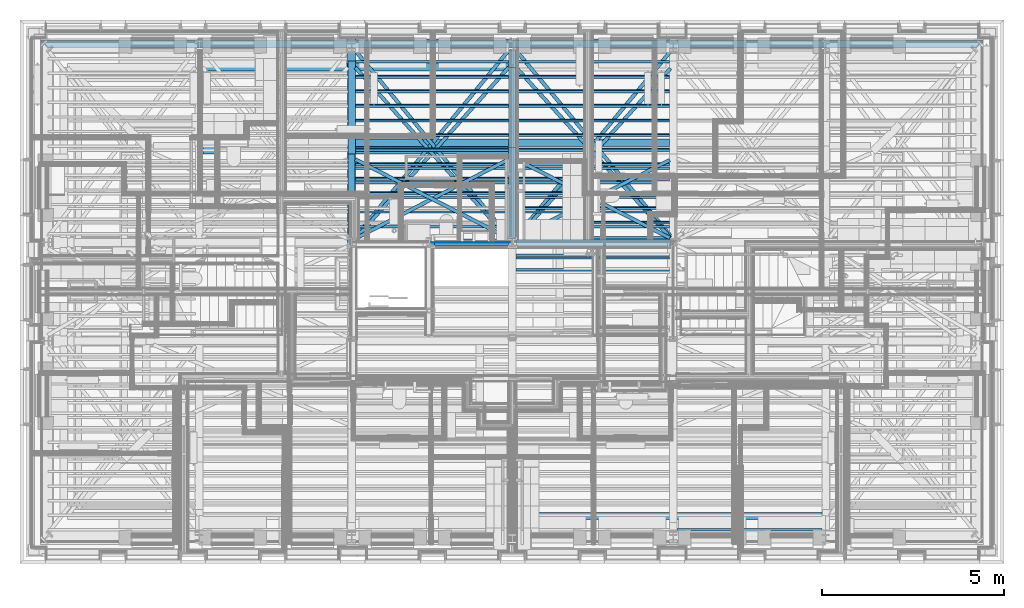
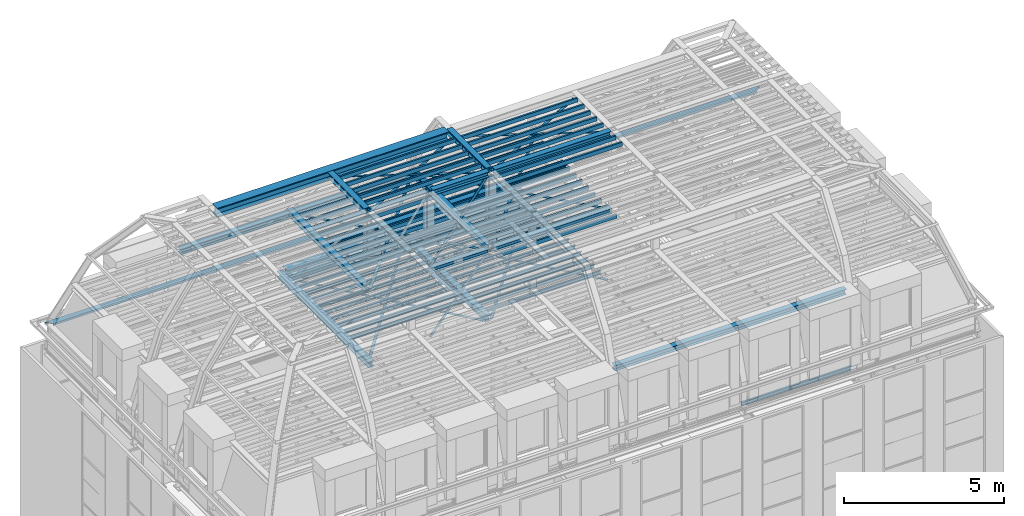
# One storey, part 8 of 183: 90 beams.
"""IFC2X3 building model written with IfcOpenShell, lengths in metres."""

from ifc_helpers import new_model, entity, si_unit, converted_unit, derived_unit, money_unit, direction, frame, frame_2d, origin_with_axes, place, context, subcontext, project, spatial, polyline, rectangle, outline, extrude, clip, halfspace, material, type_object, element, save


model = new_model("IFC2X3")

# Units and contexts
model_context = context("Model", 3, precision=1e-05, world=origin_with_axes(), true_north=direction((0.0, 1.0)))
body_context = subcontext(model_context, "Body", "Model", "MODEL_VIEW", scale=1.0)
ifc_project = project(units=[si_unit("LENGTHUNIT", "METRE"), si_unit("AREAUNIT", "SQUARE_METRE"), si_unit("VOLUMEUNIT", "CUBIC_METRE"), si_unit("ABSORBEDDOSEUNIT", "GRAY"), si_unit("AMOUNTOFSUBSTANCEUNIT", "MOLE"), si_unit("DOSEEQUIVALENTUNIT", "SIEVERT"), si_unit("ELECTRICCAPACITANCEUNIT", "FARAD"), si_unit("ELECTRICCHARGEUNIT", "COULOMB"), si_unit("ELECTRICCONDUCTANCEUNIT", "SIEMENS"), si_unit("ELECTRICCURRENTUNIT", "AMPERE"), si_unit("ELECTRICRESISTANCEUNIT", "OHM"), si_unit("ELECTRICVOLTAGEUNIT", "VOLT"), si_unit("ENERGYUNIT", "JOULE"), si_unit("FORCEUNIT", "NEWTON"), si_unit("FREQUENCYUNIT", "HERTZ"), si_unit("ILLUMINANCEUNIT", "LUX"), si_unit("INDUCTANCEUNIT", "HENRY"), si_unit("LUMINOUSFLUXUNIT", "LUMEN"), si_unit("LUMINOUSINTENSITYUNIT", "CANDELA"), si_unit("MAGNETICFLUXDENSITYUNIT", "TESLA"), si_unit("MAGNETICFLUXUNIT", "WEBER"), si_unit("MASSUNIT", "GRAM"), converted_unit("PLANEANGLEUNIT", "degree", entity("IfcReal", 0.0174532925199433), si_unit("PLANEANGLEUNIT", "RADIAN"), dimensions=[0, 0, 0, 0, 0, 0, 0]), si_unit("POWERUNIT", "WATT"), si_unit("PRESSUREUNIT", "PASCAL"), si_unit("RADIOACTIVITYUNIT", "BECQUEREL"), si_unit("SOLIDANGLEUNIT", "STERADIAN"), si_unit("THERMODYNAMICTEMPERATUREUNIT", "KELVIN"), si_unit("TIMEUNIT", "SECOND"), derived_unit("ACCELERATIONUNIT", [(si_unit("LENGTHUNIT", "METRE"), 1), (si_unit("TIMEUNIT", "SECOND"), -2)]), derived_unit("ANGULARVELOCITYUNIT", [(converted_unit("PLANEANGLEUNIT", "degree", entity("IfcReal", 0.0174532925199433), si_unit("PLANEANGLEUNIT", "RADIAN"), dimensions=[0, 0, 0, 0, 0, 0, 0]), 1), (si_unit("TIMEUNIT", "SECOND"), -1)]), derived_unit("CURVATUREUNIT", [(converted_unit("PLANEANGLEUNIT", "degree", entity("IfcReal", 0.0174532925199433), si_unit("PLANEANGLEUNIT", "RADIAN"), dimensions=[0, 0, 0, 0, 0, 0, 0]), 1), (si_unit("LENGTHUNIT", "METRE"), -1)]), derived_unit("DYNAMICVISCOSITYUNIT", [(si_unit("PRESSUREUNIT", "PASCAL"), 1), (si_unit("TIMEUNIT", "SECOND"), 1)]), derived_unit("HEATFLUXDENSITYUNIT", [(si_unit("POWERUNIT", "WATT"), 1), (si_unit("LENGTHUNIT", "METRE"), -2)]), derived_unit("HEATINGVALUEUNIT", [(si_unit("ENERGYUNIT", "JOULE"), 1), (si_unit("MASSUNIT", "GRAM"), -1)]), derived_unit("INTEGERCOUNTRATEUNIT", [(si_unit("TIMEUNIT", "SECOND"), -1)]), derived_unit("IONCONCENTRATIONUNIT", [(si_unit("MASSUNIT", "GRAM"), 1), (si_unit("VOLUMEUNIT", "CUBIC_METRE"), -1)]), derived_unit("ISOTHERMALMOISTURECAPACITYUNIT", [(si_unit("VOLUMEUNIT", "CUBIC_METRE"), 1), (si_unit("MASSUNIT", "GRAM"), -1)]), derived_unit("KINEMATICVISCOSITYUNIT", [(si_unit("AREAUNIT", "SQUARE_METRE"), 1), (si_unit("TIMEUNIT", "SECOND"), -1)]), derived_unit("LINEARFORCEUNIT", [(si_unit("FORCEUNIT", "NEWTON"), 1), (si_unit("LENGTHUNIT", "METRE"), -1)]), derived_unit("LINEARMOMENTUNIT", [(si_unit("FORCEUNIT", "NEWTON"), 1), (si_unit("LENGTHUNIT", "METRE"), -1)]), derived_unit("LINEARSTIFFNESSUNIT", [(si_unit("FORCEUNIT", "NEWTON"), 1), (si_unit("LENGTHUNIT", "METRE"), -1)]), derived_unit("LINEARVELOCITYUNIT", [(si_unit("LENGTHUNIT", "METRE"), 1), (si_unit("TIMEUNIT", "SECOND"), -1)]), derived_unit("LUMINOUSINTENSITYDISTRIBUTIONUNIT", [(si_unit("LUMINOUSINTENSITYUNIT", "CANDELA"), 1), (si_unit("LUMINOUSFLUXUNIT", "LUMEN"), -1)]), derived_unit("MASSDENSITYUNIT", [(si_unit("MASSUNIT", "GRAM"), 1), (si_unit("VOLUMEUNIT", "CUBIC_METRE"), -1)]), derived_unit("MASSFLOWRATEUNIT", [(si_unit("MASSUNIT", "GRAM"), 1), (si_unit("TIMEUNIT", "SECOND"), -1)]), derived_unit("MASSPERLENGTHUNIT", [(si_unit("MASSUNIT", "GRAM"), 1), (si_unit("LENGTHUNIT", "METRE"), -1)]), derived_unit("MODULUSOFELASTICITYUNIT", [(si_unit("FORCEUNIT", "NEWTON"), 1), (si_unit("AREAUNIT", "SQUARE_METRE"), -1)]), derived_unit("MODULUSOFLINEARSUBGRADEREACTIONUNIT", [(si_unit("FORCEUNIT", "NEWTON"), 1), (si_unit("LENGTHUNIT", "METRE"), -2)]), derived_unit("MODULUSOFROTATIONALSUBGRADEREACTIONUNIT", [(si_unit("FORCEUNIT", "NEWTON"), 1), (si_unit("LENGTHUNIT", "METRE"), 1)]), derived_unit("MODULUSOFSUBGRADEREACTIONUNIT", [(si_unit("FORCEUNIT", "NEWTON"), 1), (si_unit("VOLUMEUNIT", "CUBIC_METRE"), -1)]), derived_unit("MOISTUREDIFFUSIVITYUNIT", [(si_unit("VOLUMEUNIT", "CUBIC_METRE"), 1), (si_unit("TIMEUNIT", "SECOND"), -1)]), derived_unit("MOLECULARWEIGHTUNIT", [(si_unit("MASSUNIT", "GRAM"), 1), (si_unit("AMOUNTOFSUBSTANCEUNIT", "MOLE"), -1)]), derived_unit("PLANARFORCEUNIT", [(si_unit("FORCEUNIT", "NEWTON"), 1), (si_unit("LENGTHUNIT", "METRE"), -2)]), derived_unit("ROTATIONALFREQUENCYUNIT", [(si_unit("TIMEUNIT", "SECOND"), -1)]), derived_unit("ROTATIONALMASSUNIT", [(si_unit("MASSUNIT", "GRAM"), 1), (si_unit("LENGTHUNIT", "METRE"), 2)]), derived_unit("ROTATIONALSTIFFNESSUNIT", [(si_unit("FORCEUNIT", "NEWTON"), 1), (si_unit("LENGTHUNIT", "METRE"), 1), (converted_unit("PLANEANGLEUNIT", "degree", entity("IfcReal", 0.0174532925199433), si_unit("PLANEANGLEUNIT", "RADIAN"), dimensions=[0, 0, 0, 0, 0, 0, 0]), -1)]), derived_unit("SECTIONAREAINTEGRALUNIT", [(si_unit("LENGTHUNIT", "METRE"), 5)]), derived_unit("SECTIONMODULUSUNIT", [(si_unit("LENGTHUNIT", "METRE"), 3)]), derived_unit("SHEARMODULUSUNIT", [(si_unit("FORCEUNIT", "NEWTON"), 1), (si_unit("AREAUNIT", "SQUARE_METRE"), -1)]), derived_unit("SOUNDPOWERUNIT", [(si_unit("ENERGYUNIT", "JOULE"), 1), (si_unit("TIMEUNIT", "SECOND"), -1)]), derived_unit("SPECIFICHEATCAPACITYUNIT", [(si_unit("FORCEUNIT", "NEWTON"), 1), (si_unit("MASSUNIT", "GRAM"), -1), (si_unit("THERMODYNAMICTEMPERATUREUNIT", "KELVIN"), -1)]), derived_unit("TEMPERATUREGRADIENTUNIT", [(si_unit("THERMODYNAMICTEMPERATUREUNIT", "KELVIN"), 1), (si_unit("LENGTHUNIT", "METRE"), -1)]), derived_unit("THERMALADMITTANCEUNIT", [(si_unit("POWERUNIT", "WATT"), 1), (si_unit("AREAUNIT", "SQUARE_METRE"), -1), (si_unit("THERMODYNAMICTEMPERATUREUNIT", "KELVIN"), -1)]), derived_unit("THERMALCONDUCTANCEUNIT", [(si_unit("POWERUNIT", "WATT"), 1), (si_unit("LENGTHUNIT", "METRE"), -1), (si_unit("THERMODYNAMICTEMPERATUREUNIT", "KELVIN"), -1)]), derived_unit("THERMALEXPANSIONCOEFFICIENTUNIT", [(si_unit("THERMODYNAMICTEMPERATUREUNIT", "KELVIN"), -1)]), derived_unit("THERMALRESISTANCEUNIT", [(si_unit("AREAUNIT", "SQUARE_METRE"), 1), (si_unit("POWERUNIT", "WATT"), -1)]), derived_unit("THERMALTRANSMITTANCEUNIT", [(si_unit("POWERUNIT", "WATT"), 1), (si_unit("AREAUNIT", "SQUARE_METRE"), -1), (si_unit("THERMODYNAMICTEMPERATUREUNIT", "KELVIN"), -1)]), derived_unit("TORQUEUNIT", [(si_unit("FORCEUNIT", "NEWTON"), 1), (si_unit("LENGTHUNIT", "METRE"), 1)]), derived_unit("VAPORPERMEABILITYUNIT", [(si_unit("MASSUNIT", "GRAM"), 1), (si_unit("TIMEUNIT", "SECOND"), -1)]), derived_unit("VOLUMETRICFLOWRATEUNIT", [(si_unit("VOLUMEUNIT", "CUBIC_METRE"), 1), (si_unit("TIMEUNIT", "SECOND"), -1)]), derived_unit("WARPINGCONSTANTUNIT", [(si_unit("LENGTHUNIT", "METRE"), 6)]), derived_unit("WARPINGMOMENTUNIT", [(si_unit("FORCEUNIT", "NEWTON"), 1), (si_unit("LENGTHUNIT", "METRE"), 2)]), money_unit("GBP")], contexts=[model_context])

# Site, building, storey
site_placement = place(None, origin_with_axes())
site = spatial("IfcSite", under=ifc_project, at=site_placement, Name="Site", CompositionType="ELEMENT")
building_placement = place(site_placement, origin_with_axes())
building = spatial("IfcBuilding", under=site, at=building_placement, Name="Building01", CompositionType="ELEMENT")
storey_placement = place(building_placement, frame((0.0, 0.0, 5.15), z_axis=(0.0, 0.0, 1.0), x_axis=(1.0, 0.0, 0.0)))
storey = spatial("IfcBuildingStorey", under=building, at=storey_placement, Name="1F", CompositionType="ELEMENT", Elevation=5.15)

# Beams
ifc_material = material(Name="A_BSUK_Beams_Steel")
beam_type_1 = type_object("IfcBeamType", Name="A-Beams-Steel", PredefinedType="BEAM")
beam_1_placement = place(storey_placement, frame((9.19455, 14.0616, 9.5078), z_axis=(1.0, 0.0, 0.0), x_axis=(0.0, 1.0, 0.0)))
element("IfcBeam", 1, at=beam_1_placement, inside=storey, type_object=beam_type_1, material=ifc_material, Name="4F", ObjectType="A-Beams-Steel", context=body_context, shape_type="SweptSolid", body=[
    extrude(outline(polyline([(0.3184, 0.0), (0.3184, 0.0377), (0.1707, 0.0377), (0.1707, 0.3148), (0.3184, 0.3148), (0.3184, 0.3525), (0.0, 0.3525), (0.0, 0.3148), (0.1477, 0.3148), (0.1477, 0.0377), (0.0, 0.0377), (0.0, 0.0), (0.3184, 0.0)])), origin_with_axes(), (0.0, 0.0, 1.0), 8.6109),
])
beam_2_placement = place(storey_placement, frame((8.98545, 14.38, 9.5078), z_axis=(0.0, -1.0, 0.0), x_axis=(1.0, 0.0, 0.0)))
element("IfcBeam", 2, at=beam_2_placement, inside=storey, type_object=beam_type_1, material=ifc_material, Name="4F", ObjectType="A-Beams-Steel", context=body_context, shape_type="SweptSolid", body=[
    extrude(outline(polyline([(0.2091, 0.0), (0.2091, 0.0205), (0.1109, 0.0205), (0.1109, 0.2017), (0.2091, 0.2017), (0.2091, 0.2222), (0.0, 0.2222), (0.0, 0.2017), (0.0982, 0.2017), (0.0982, 0.0205), (0.0, 0.0205), (0.0, 0.0), (0.2091, 0.0)])), origin_with_axes(), (0.0, 0.0, 1.0), 5.7392),
])
beam_3_placement = place(storey_placement, frame((13.39545, 14.0616, 9.5078), z_axis=(0.0, -1.0, 0.0), x_axis=(1.0, 0.0, 0.0)))
element("IfcBeam", 3, at=beam_3_placement, inside=storey, type_object=beam_type_1, material=ifc_material, Name="4F", ObjectType="A-Beams-Steel", context=body_context, shape_type="SweptSolid", body=[
    extrude(outline(polyline([(0.2091, 0.0), (0.2091, 0.0205), (0.1109, 0.0205), (0.1109, 0.2017), (0.2091, 0.2017), (0.2091, 0.2222), (0.0, 0.2222), (0.0, 0.2017), (0.0982, 0.2017), (0.0982, 0.0205), (0.0, 0.0205), (0.0, 0.0), (0.2091, 0.0)])), origin_with_axes(), (0.0, 0.0, 1.0), 5.1024),
])
beam_4_placement = place(storey_placement, frame((5.0132, 13.4982, 12.2768), z_axis=(1.0, 0.0, 0.0), x_axis=(0.0, 1.0, 0.0)))
element("IfcBeam", 4, at=beam_4_placement, inside=storey, type_object=beam_type_1, material=ifc_material, Name="5F", ObjectType="A-Beams-Steel", context=body_context, shape_type="SweptSolid", body=[
    extrude(outline(polyline([(0.2036, 0.0), (0.2036, 0.011), (0.1054, 0.011), (0.1054, 0.1922), (0.2036, 0.1922), (0.2036, 0.2032), (0.0, 0.2032), (0.0, 0.1922), (0.0982, 0.1922), (0.0982, 0.011), (0.0, 0.011), (0.0, 0.0), (0.2036, 0.0)])), origin_with_axes(), (0.0, 0.0, 1.0), 8.3836),
])
beam_5_placement = place(storey_placement, frame((8.9868, 13.780445, 12.2642), z_axis=(0.0, -1.0, 0.0), x_axis=(1.0, 0.0, 0.0)))
element("IfcBeam", 5, at=beam_5_placement, inside=storey, type_object=beam_type_1, material=ifc_material, Name="5F", ObjectType="A-Beams-Steel", context=body_context, shape_type="SweptSolid", body=[
    extrude(outline(polyline([(0.2064, 0.0), (0.2064, 0.0173), (0.1082, 0.0173), (0.1082, 0.1985), (0.2064, 0.1985), (0.2064, 0.2158), (0.0, 0.2158), (0.0, 0.1985), (0.0982, 0.1985), (0.0982, 0.0173), (0.0, 0.0173), (0.0, 0.0), (0.2064, 0.0)])), origin_with_axes(), (0.0, 0.0, 1.0), 4.866145),
])
beam_6_placement = place(storey_placement, frame((13.3968, 13.5982, 12.2642), z_axis=(0.0, -1.0, 0.0), x_axis=(1.0, 0.0, 0.0)))
element("IfcBeam", 6, at=beam_6_placement, inside=storey, type_object=beam_type_1, material=ifc_material, Name="5F", ObjectType="A-Beams-Steel", context=body_context, shape_type="SweptSolid", body=[
    extrude(outline(polyline([(0.2064, 0.0), (0.2064, 0.0173), (0.1082, 0.0173), (0.1082, 0.1985), (0.2064, 0.1985), (0.2064, 0.2158), (0.0, 0.2158), (0.0, 0.1985), (0.0982, 0.1985), (0.0982, 0.0173), (0.0, 0.0173), (0.0, 0.0), (0.2064, 0.0)])), origin_with_axes(), (0.0, 0.0, 1.0), 4.6839),
])
beam_7_placement = place(storey_placement, frame((13.6032, 1.1982, 12.2768), z_axis=(1.0, 0.0, 0.0), x_axis=(0.0, 1.0, 0.0)))
element("IfcBeam", 7, at=beam_7_placement, inside=storey, type_object=beam_type_1, material=ifc_material, Name="5F", ObjectType="A-Beams-Steel", context=body_context, shape_type="SweptSolid", body=[
    extrude(outline(polyline([(0.2036, 0.0), (0.2036, 0.011), (0.1054, 0.011), (0.1054, 0.1922), (0.2036, 0.1922), (0.2036, 0.2032), (0.0, 0.2032), (0.0, 0.1922), (0.0982, 0.1922), (0.0982, 0.011), (0.0, 0.011), (0.0, 0.0), (0.2036, 0.0)])), origin_with_axes(), (0.0, 0.0, 1.0), 8.38225),
])
beam_8_placement = place(storey_placement, frame((11.26515, 8.698199, 12.2768), z_axis=(1.0, 0.0, 0.0), x_axis=(0.0, 1.0, 0.0)))
element("IfcBeam", 8, at=beam_8_placement, inside=storey, type_object=beam_type_1, material=ifc_material, Name="5F", ObjectType="A-Beams-Steel", context=body_context, shape_type="SweptSolid", body=[
    extrude(outline(polyline([(0.2036, 0.0), (0.2036, 0.011), (0.1054, 0.011), (0.1054, 0.1922), (0.2036, 0.1922), (0.2036, 0.2032), (0.0, 0.2032), (0.0, 0.1922), (0.0982, 0.1922), (0.0982, 0.011), (0.0, 0.011), (0.0, 0.0), (0.2036, 0.0)])), origin_with_axes(), (0.0, 0.0, 1.0), 2.1297),
])
beam_9_placement = place(storey_placement, frame((13.60515, 8.698199, 12.2768), z_axis=(1.0, 0.0, 0.0), x_axis=(0.0, 1.0, 0.0)))
element("IfcBeam", 9, at=beam_9_placement, inside=storey, type_object=beam_type_1, material=ifc_material, Name="5F", ObjectType="A-Beams-Steel", context=body_context, shape_type="SweptSolid", body=[
    extrude(outline(polyline([(0.2036, 0.0), (0.2036, 0.011), (0.1054, 0.011), (0.1054, 0.1922), (0.2036, 0.1922), (0.2036, 0.2032), (0.0, 0.2032), (0.0, 0.1922), (0.0982, 0.1922), (0.0982, 0.011), (0.0, 0.011), (0.0, 0.0), (0.2036, 0.0)])), origin_with_axes(), (0.0, 0.0, 1.0), 4.22985),
])
beam_10_placement = place(storey_placement, frame((9.1932, 11.4382, 12.2768), z_axis=(1.0, 0.0, 0.0), x_axis=(0.0, 1.0, 0.0)))
element("IfcBeam", 10, at=beam_10_placement, inside=storey, type_object=beam_type_1, material=ifc_material, Name="5F", ObjectType="A-Beams-Steel", context=body_context, shape_type="SweptSolid", body=[
    extrude(outline(polyline([(0.2036, 0.0), (0.2036, 0.011), (0.1054, 0.011), (0.1054, 0.1922), (0.2036, 0.1922), (0.2036, 0.2032), (0.0, 0.2032), (0.0, 0.1922), (0.0982, 0.1922), (0.0982, 0.011), (0.0, 0.011), (0.0, 0.0), (0.2036, 0.0)])), origin_with_axes(), (0.0, 0.0, 1.0), 4.203576),
])
beam_11_placement = place(storey_placement, frame((13.6032, 11.4382, 12.2768), z_axis=(1.0, 0.0, 0.0), x_axis=(0.0, 1.0, 0.0)))
element("IfcBeam", 11, at=beam_11_placement, inside=storey, type_object=beam_type_1, material=ifc_material, Name="5F", ObjectType="A-Beams-Steel", context=body_context, shape_type="SweptSolid", body=[
    extrude(outline(polyline([(0.2036, 0.0), (0.2036, 0.011), (0.1054, 0.011), (0.1054, 0.1922), (0.2036, 0.1922), (0.2036, 0.2032), (0.0, 0.2032), (0.0, 0.1922), (0.0982, 0.1922), (0.0982, 0.011), (0.0, 0.011), (0.0, 0.0), (0.2036, 0.0)])), origin_with_axes(), (0.0, 0.0, 1.0), 4.2036),
])
beam_12_placement = place(storey_placement, frame((8.9882, 11.2208, 15.2268), z_axis=(0.0, -1.0, 0.0), x_axis=(1.0, 0.0, 0.0)))
element("IfcBeam", 12, at=beam_12_placement, inside=storey, type_object=beam_type_1, material=ifc_material, Name="RP", ObjectType="A-Beams-Steel", context=body_context, shape_type="SweptSolid", body=[
    extrude(outline(polyline([(0.2036, 0.0), (0.2036, 0.011), (0.1054, 0.011), (0.1054, 0.1922), (0.2036, 0.1922), (0.2036, 0.2032), (0.0, 0.2032), (0.0, 0.1922), (0.0982, 0.1922), (0.0982, 0.011), (0.0, 0.011), (0.0, 0.0), (0.2036, 0.0)])), origin_with_axes(), (0.0, 0.0, 1.0), 2.3176),
])
beam_13_placement = place(storey_placement, frame((13.3982, 11.3992, 15.2268), z_axis=(0.0, -1.0, 0.0), x_axis=(1.0, 0.0, 0.0)))
element("IfcBeam", 13, at=beam_13_placement, inside=storey, type_object=beam_type_1, material=ifc_material, Name="RP", ObjectType="A-Beams-Steel", context=body_context, shape_type="SweptSolid", body=[
    extrude(outline(polyline([(0.2036, 0.0), (0.2036, 0.011), (0.1054, 0.011), (0.1054, 0.1922), (0.2036, 0.1922), (0.2036, 0.2032), (0.0, 0.2032), (0.0, 0.1922), (0.0982, 0.1922), (0.0982, 0.011), (0.0, 0.011), (0.0, 0.0), (0.2036, 0.0)])), origin_with_axes(), (0.0, 0.0, 1.0), 2.4849),
])
beam_14_placement = place(storey_placement, frame((11.36515, 8.6982, 15.2268), z_axis=(1.0, 0.0, 0.0), x_axis=(0.0, 1.0, 0.0)))
element("IfcBeam", 14, at=beam_14_placement, inside=storey, type_object=beam_type_1, material=ifc_material, Name="RP", ObjectType="A-Beams-Steel", context=body_context, shape_type="SweptSolid", body=[
    extrude(outline(polyline([(0.2036, 0.0), (0.2036, 0.011), (0.1054, 0.011), (0.1054, 0.1922), (0.2036, 0.1922), (0.2036, 0.2032), (0.0, 0.2032), (0.0, 0.1922), (0.0982, 0.1922), (0.0982, 0.011), (0.0, 0.011), (0.0, 0.0), (0.2036, 0.0)])), origin_with_axes(), (0.0, 0.0, 1.0), 2.0297),
])
beam_15_placement = place(storey_placement, frame((13.60515, 8.6982, 15.2268), z_axis=(1.0, 0.0, 0.0), x_axis=(0.0, 1.0, 0.0)))
element("IfcBeam", 15, at=beam_15_placement, inside=storey, type_object=beam_type_1, material=ifc_material, Name="RP", ObjectType="A-Beams-Steel", context=body_context, shape_type="SweptSolid", body=[
    extrude(outline(polyline([(0.2036, 0.0), (0.2036, 0.011), (0.1054, 0.011), (0.1054, 0.1922), (0.2036, 0.1922), (0.2036, 0.2032), (0.0, 0.2032), (0.0, 0.1922), (0.0982, 0.1922), (0.0982, 0.011), (0.0, 0.011), (0.0, 0.0), (0.2036, 0.0)])), origin_with_axes(), (0.0, 0.0, 1.0), 4.20305),
])
beam_16_placement = place(storey_placement, frame((5.011822, 11.2208, 15.0775), z_axis=(1.0, 0.0, 0.0), x_axis=(0.0, 1.0, 0.0)))
element("IfcBeam", 16, at=beam_16_placement, inside=storey, type_object=beam_type_1, material=ifc_material, Name="RP", ObjectType="A-Beams-Steel", context=body_context, shape_type="SweptSolid", body=[
    extrude(outline(polyline([(0.3184, 0.0), (0.3184, 0.0377), (0.1707, 0.0377), (0.1707, 0.3148), (0.3184, 0.3148), (0.3184, 0.3525), (0.0, 0.3525), (0.0, 0.3148), (0.1477, 0.3148), (0.1477, 0.0377), (0.0, 0.0377), (0.0, 0.0), (0.3184, 0.0)])), origin_with_axes(), (0.0, 0.0, 1.0), 8.386378),
])
for number, where, z_axis, x_axis, name in (
    (17, (13.356849, 14.093381, 9.558), (-0.6356102, -0.77201016, 0.0), (0.77201016, -0.6356102, 0.0), "4F"),
    (18, (9.155949, 14.029819, 9.568), (0.6356102, -0.77201016, 0.0), (0.77201016, 0.6356102, 0.0), "4F"),
):
    element("IfcBeam", number, at=place(storey_placement, frame(where, z_axis=z_axis, x_axis=x_axis)), inside=storey, type_object=beam_type_1, material=ifc_material, Name=name, ObjectType="A-Beams-Steel", context=body_context, shape_type="SweptSolid", body=[
        extrude(rectangle(XDim=0.01, YDim=0.1, at=frame_2d((0.05, 0.005), x_axis=(0.0, 1.0))), origin_with_axes(), (0.0, 0.0, 1.0), 6.609239),
    ])
for number, where, z_axis, x_axis, name in (
    (19, (13.566135, 14.029596, 9.568), (0.64008664, -0.76830273, 0.0), (0.76830273, 0.64008664, 0.0), "4F"),
    (20, (17.796549, 14.069015, 9.558), (-0.64008664, -0.76830273, 0.0), (0.76830273, -0.64008664, 0.0), "4F"),
):
    element("IfcBeam", number, at=place(storey_placement, frame(where, z_axis=z_axis, x_axis=x_axis)), inside=storey, type_object=beam_type_1, material=ifc_material, Name=name, ObjectType="A-Beams-Steel", context=body_context, shape_type="SweptSolid", body=[
        extrude(rectangle(XDim=0.01, YDim=0.1, at=frame_2d((0.05, 0.005), x_axis=(0.0, 1.0))), origin_with_axes(), (0.0, 0.0, 1.0), 6.609128),
    ])
beam_17_placement = place(storey_placement, frame((13.359544, 13.631547, 12.308), z_axis=(-0.66693206, -0.74511853, 0.0), x_axis=(0.74511853, -0.66693206, 0.0)))
element("IfcBeam", 21, at=beam_17_placement, inside=storey, type_object=beam_type_1, material=ifc_material, Name="5F", ObjectType="A-Beams-Steel", context=body_context, shape_type="SweptSolid", body=[
    extrude(rectangle(XDim=0.01, YDim=0.1, at=frame_2d((0.05, 0.005), x_axis=(0.0, 1.0))), origin_with_axes(), (0.0, 0.0, 1.0), 6.302891),
])
beam_18_placement = place(storey_placement, frame((9.155936, 13.564862, 12.318), z_axis=(0.66676024, -0.74527229, 0.0), x_axis=(0.74527229, 0.66676024, 0.0)))
element("IfcBeam", 22, at=beam_18_placement, inside=storey, type_object=beam_type_1, material=ifc_material, Name="5F", ObjectType="A-Beams-Steel", context=body_context, shape_type="SweptSolid", body=[
    extrude(rectangle(XDim=0.01, YDim=0.1, at=frame_2d((0.05, 0.005), x_axis=(0.0, 1.0))), origin_with_axes(), (0.0, 0.0, 1.0), 6.301591),
])
beam_19_placement = place(storey_placement, frame((17.797208, 13.606888, 12.308), z_axis=(-0.67132733, -0.741161, 0.0), x_axis=(0.741161, -0.67132733, 0.0)))
element("IfcBeam", 23, at=beam_19_placement, inside=storey, type_object=beam_type_1, material=ifc_material, Name="5F", ObjectType="A-Beams-Steel", context=body_context, shape_type="SweptSolid", body=[
    extrude(rectangle(XDim=0.01, YDim=0.1, at=frame_2d((0.05, 0.005), x_axis=(0.0, 1.0))), origin_with_axes(), (0.0, 0.0, 1.0), 6.302538),
])
beam_20_placement = place(storey_placement, frame((13.566141, 13.564635, 12.318), z_axis=(0.67130162, -0.74118428, 0.0), x_axis=(0.74118428, 0.67130162, 0.0)))
element("IfcBeam", 24, at=beam_20_placement, inside=storey, type_object=beam_type_1, material=ifc_material, Name="5F", ObjectType="A-Beams-Steel", context=body_context, shape_type="SweptSolid", body=[
    extrude(rectangle(XDim=0.01, YDim=0.1, at=frame_2d((0.05, 0.005), x_axis=(0.0, 1.0))), origin_with_axes(), (0.0, 0.0, 1.0), 6.302782),
])
beam_21_placement = place(storey_placement, frame((9.214787, 8.858797, 15.258), z_axis=(0.88805598, 0.45973533, 0.0), x_axis=(-0.45973533, 0.88805598, 0.0)))
element("IfcBeam", 25, at=beam_21_placement, inside=storey, type_object=beam_type_1, material=ifc_material, Name="RP", ObjectType="A-Beams-Steel", context=body_context, shape_type="SweptSolid", body=[
    extrude(rectangle(XDim=0.01, YDim=0.1, at=frame_2d((0.05, 0.005), x_axis=(0.0, 1.0))), origin_with_axes(), (0.0, 0.0, 1.0), 4.736638),
])
beam_22_placement = place(storey_placement, frame((9.168906, 11.036349, 15.268), z_axis=(0.88901184, -0.45788421, 0.0), x_axis=(0.45788421, 0.88901184, 0.0)))
element("IfcBeam", 26, at=beam_22_placement, inside=storey, type_object=beam_type_1, material=ifc_material, Name="RP", ObjectType="A-Beams-Steel", context=body_context, shape_type="SweptSolid", body=[
    extrude(rectangle(XDim=0.01, YDim=0.1, at=frame_2d((0.05, 0.005), x_axis=(0.0, 1.0))), origin_with_axes(), (0.0, 0.0, 1.0), 4.731546),
])
beam_23_placement = place(storey_placement, frame((13.624481, 8.86974, 15.258), z_axis=(0.89119651, 0.45361743, 0.0), x_axis=(-0.45361743, 0.89119651, 0.0)))
element("IfcBeam", 27, at=beam_23_placement, inside=storey, type_object=beam_type_1, material=ifc_material, Name="RP", ObjectType="A-Beams-Steel", context=body_context, shape_type="SweptSolid", body=[
    extrude(rectangle(XDim=0.01, YDim=0.1, at=frame_2d((0.05, 0.005), x_axis=(0.0, 1.0))), origin_with_axes(), (0.0, 0.0, 1.0), 4.731491),
])
beam_24_placement = place(storey_placement, frame((13.579027, 11.036287, 15.268), z_axis=(0.89025605, -0.45546038, 0.0), x_axis=(0.45546038, 0.89025605, 0.0)))
element("IfcBeam", 28, at=beam_24_placement, inside=storey, type_object=beam_type_1, material=ifc_material, Name="RP", ObjectType="A-Beams-Steel", context=body_context, shape_type="SweptSolid", body=[
    extrude(rectangle(XDim=0.01, YDim=0.1, at=frame_2d((0.05, 0.005), x_axis=(0.0, 1.0))), origin_with_axes(), (0.0, 0.0, 1.0), 4.736584),
])
beam_25_placement = place(storey_placement, frame((13.36027, 8.789999, 9.71843), z_axis=(-0.63640869, 0.0, 0.77135205), x_axis=(0.77135205, 0.0, 0.63640869)))
element("IfcBeam", 29, at=beam_25_placement, inside=storey, type_object=beam_type_1, material=ifc_material, Name="4F", ObjectType="A-Beams-Steel", context=body_context, shape_type="SweptSolid", body=[
    extrude(rectangle(XDim=0.01, YDim=0.1, at=frame_2d((0.05, 0.005), x_axis=(0.0, 1.0))), origin_with_axes(), (0.0, 0.0, 1.0), 3.233239),
])
beam_26_placement = place(storey_placement, frame((11.272485, 8.799999, 9.814783), z_axis=(0.63742277, 0.0, 0.77051425), x_axis=(0.77051425, 0.0, -0.63742277)))
element("IfcBeam", 30, at=beam_26_placement, inside=storey, type_object=beam_type_1, material=ifc_material, Name="4F", ObjectType="A-Beams-Steel", context=body_context, shape_type="SweptSolid", body=[
    extrude(rectangle(XDim=0.01, YDim=0.1, at=frame_2d((0.05, 0.005), x_axis=(0.0, 1.0))), origin_with_axes(), (0.0, 0.0, 1.0), 3.194831),
])
beam_27_placement = place(storey_placement, frame((13.334042, 8.789999, 12.450338), z_axis=(-0.59323473, 0.0, 0.80502954), x_axis=(0.80502954, 0.0, 0.59323473)))
element("IfcBeam", 31, at=beam_27_placement, inside=storey, type_object=beam_type_1, material=ifc_material, Name="5F", ObjectType="A-Beams-Steel", context=body_context, shape_type="SweptSolid", body=[
    extrude(rectangle(XDim=0.01, YDim=0.1, at=frame_2d((0.05, 0.005), x_axis=(0.0, 1.0))), origin_with_axes(), (0.0, 0.0, 1.0), 3.374751),
])
beam_28_placement = place(storey_placement, frame((11.271192, 8.799999, 12.513152), z_axis=(0.60480439, 0.0, 0.79637406), x_axis=(0.79637406, 0.0, -0.60480439)))
element("IfcBeam", 32, at=beam_28_placement, inside=storey, type_object=beam_type_1, material=ifc_material, Name="5F", ObjectType="A-Beams-Steel", context=body_context, shape_type="SweptSolid", body=[
    extrude(rectangle(XDim=0.01, YDim=0.1, at=frame_2d((0.05, 0.005), x_axis=(0.0, 1.0))), origin_with_axes(), (0.0, 0.0, 1.0), 3.408242),
])
beam_29_placement = place(storey_placement, frame((0.5664, 14.1387, 10.748931), z_axis=(1.0, 0.0, 0.0), x_axis=(0.0, 0.0, -1.0)))
element("IfcBeam", 33, at=beam_29_placement, inside=storey, type_object=beam_type_1, material=ifc_material, Name="4F", ObjectType="A-Beams-Steel", context=body_context, shape_type="Clipping", body=[
    clip(clip(extrude(outline(polyline([(0.075, 0.0), (0.075, 0.012), (0.006, 0.012), (0.006, 0.188), (0.075, 0.188), (0.075, 0.2), (0.0, 0.2), (0.0, 0.0), (0.075, 0.0)])), origin_with_axes(), (0.0, 0.0, 1.0), 25.8472), halfspace(frame((0.0, -12.8236, 12.8236), z_axis=(0.0, 0.70710678, -0.70710678), x_axis=(-1.0, 0.0, 0.0)), True)), halfspace(frame((0.0, 0.1, 0.1), z_axis=(0.0, 0.70710678, 0.70710678), x_axis=(-1.0, 0.0, 0.0)), True)),
])
beam_type_2 = type_object("IfcBeamType", Name="SHE_A-Beams-Steel-Purlin_150m15", PredefinedType="BEAM")
for number, where, z_axis, x_axis, name in (
    (34, (17.80545, 9.3912, 9.578), (-1.0, 0.0, 0.0), (0.0, -1.0, 0.0), "4F"),
    (35, (17.80545, 9.7912, 9.578), (-1.0, 0.0, 0.0), (0.0, -1.0, 0.0), "4F"),
    (36, (17.80545, 10.1912, 9.578), (-1.0, 0.0, 0.0), (0.0, -1.0, 0.0), "4F"),
    (37, (17.80545, 10.5912, 9.578), (-1.0, 0.0, 0.0), (0.0, -1.0, 0.0), "4F"),
    (38, (17.80545, 10.9912, 9.578), (-1.0, 0.0, 0.0), (0.0, -1.0, 0.0), "4F"),
    (39, (17.80545, 11.3912, 9.578), (-1.0, 0.0, 0.0), (0.0, -1.0, 0.0), "4F"),
    (40, (17.80545, 11.7912, 9.578), (-1.0, 0.0, 0.0), (0.0, -1.0, 0.0), "4F"),
    (41, (17.80545, 12.1912, 9.578), (-1.0, 0.0, 0.0), (0.0, -1.0, 0.0), "4F"),
    (42, (17.80545, 12.5912, 9.578), (-1.0, 0.0, 0.0), (0.0, -1.0, 0.0), "4F"),
    (43, (17.80545, 12.9912, 9.578), (-1.0, 0.0, 0.0), (0.0, -1.0, 0.0), "4F"),
    (44, (17.80545, 13.3912, 9.578), (-1.0, 0.0, 0.0), (0.0, -1.0, 0.0), "4F"),
    (45, (17.80545, 13.7912, 9.578), (-1.0, 0.0, 0.0), (0.0, -1.0, 0.0), "4F"),
    (46, (13.39545, 10.1912, 9.578), (-1.0, 0.0, 0.0), (0.0, -1.0, 0.0), "4F"),
    (47, (13.39545, 10.5912, 9.578), (-1.0, 0.0, 0.0), (0.0, -1.0, 0.0), "4F"),
    (48, (13.39545, 10.9912, 9.578), (-1.0, 0.0, 0.0), (0.0, -1.0, 0.0), "4F"),
    (49, (13.39545, 11.3912, 9.578), (-1.0, 0.0, 0.0), (0.0, -1.0, 0.0), "4F"),
    (50, (13.39545, 11.7912, 9.578), (-1.0, 0.0, 0.0), (0.0, -1.0, 0.0), "4F"),
    (51, (13.39545, 12.1912, 9.578), (-1.0, 0.0, 0.0), (0.0, -1.0, 0.0), "4F"),
    (52, (13.39545, 12.5912, 9.578), (-1.0, 0.0, 0.0), (0.0, -1.0, 0.0), "4F"),
    (53, (13.39545, 12.9912, 9.578), (-1.0, 0.0, 0.0), (0.0, -1.0, 0.0), "4F"),
    (54, (13.39545, 13.3912, 9.578), (-1.0, 0.0, 0.0), (0.0, -1.0, 0.0), "4F"),
    (55, (13.39545, 13.7912, 9.578), (-1.0, 0.0, 0.0), (0.0, -1.0, 0.0), "4F"),
):
    element("IfcBeam", number, at=place(storey_placement, frame(where, z_axis=z_axis, x_axis=x_axis)), inside=storey, type_object=beam_type_2, material=ifc_material, Name=name, ObjectType="SHE_A-Beams-Steel-Purlin_150m15", context=body_context, shape_type="SweptSolid", body=[
        extrude(outline(polyline([(0.064, 0.0), (0.064, 0.0155), (0.0625, 0.0155), (0.0625, 0.0015), (0.0015, 0.0015), (0.0015, 0.1505), (0.0625, 0.1505), (0.0625, 0.1365), (0.064, 0.1365), (0.064, 0.152), (0.0, 0.152), (0.0, 0.0), (0.064, 0.0)])), origin_with_axes(), (0.0, 0.0, 1.0), 4.2009),
    ])
beam_30_placement = place(storey_placement, frame((21.98545, 0.952, 9.578), z_axis=(-1.0, 0.0, 0.0), x_axis=(0.0, -1.0, 0.0)))
element("IfcBeam", 56, at=beam_30_placement, inside=storey, type_object=beam_type_2, material=ifc_material, Name="4F", ObjectType="SHE_A-Beams-Steel-Purlin_150m15", context=body_context, shape_type="SweptSolid", body=[
    extrude(outline(polyline([(0.064, 0.0), (0.064, 0.0155), (0.0625, 0.0155), (0.0625, 0.0015), (0.0015, 0.0015), (0.0015, 0.1505), (0.0625, 0.1505), (0.0625, 0.1365), (0.064, 0.1365), (0.064, 0.152), (0.0, 0.152), (0.0, 0.0), (0.064, 0.0)])), origin_with_axes(), (0.0, 0.0, 1.0), 3.9709),
])
for number, where, z_axis, x_axis, name in (
    (57, (9.1932, 12.900627, 12.328), (1.0, 0.0, 0.0), (0.0, 1.0, 0.0), "5F"),
    (58, (9.1932, 13.300627, 12.328), (1.0, 0.0, 0.0), (0.0, 1.0, 0.0), "5F"),
    (59, (9.1932, 12.500627, 12.328), (1.0, 0.0, 0.0), (0.0, 1.0, 0.0), "5F"),
    (60, (9.1932, 12.100627, 12.328), (1.0, 0.0, 0.0), (0.0, 1.0, 0.0), "5F"),
    (61, (9.1932, 11.700627, 12.328), (1.0, 0.0, 0.0), (0.0, 1.0, 0.0), "5F"),
    (62, (9.1932, 11.300627, 12.328), (1.0, 0.0, 0.0), (0.0, 1.0, 0.0), "5F"),
    (63, (9.1932, 10.900627, 12.328), (1.0, 0.0, 0.0), (0.0, 1.0, 0.0), "5F"),
    (64, (9.1932, 10.500627, 12.328), (1.0, 0.0, 0.0), (0.0, 1.0, 0.0), "5F"),
    (65, (9.1932, 10.100627, 12.328), (1.0, 0.0, 0.0), (0.0, 1.0, 0.0), "5F"),
    (66, (13.6032, 12.900627, 12.328), (1.0, 0.0, 0.0), (0.0, 1.0, 0.0), "5F"),
    (67, (13.6032, 13.300627, 12.328), (1.0, 0.0, 0.0), (0.0, 1.0, 0.0), "5F"),
    (68, (13.6032, 12.500627, 12.328), (1.0, 0.0, 0.0), (0.0, 1.0, 0.0), "5F"),
    (69, (13.6032, 12.100627, 12.328), (1.0, 0.0, 0.0), (0.0, 1.0, 0.0), "5F"),
    (70, (13.6032, 11.700627, 12.328), (1.0, 0.0, 0.0), (0.0, 1.0, 0.0), "5F"),
    (71, (13.6032, 11.300627, 12.328), (1.0, 0.0, 0.0), (0.0, 1.0, 0.0), "5F"),
    (72, (13.6032, 10.900627, 12.328), (1.0, 0.0, 0.0), (0.0, 1.0, 0.0), "5F"),
    (73, (13.6032, 10.500627, 12.328), (1.0, 0.0, 0.0), (0.0, 1.0, 0.0), "5F"),
    (74, (13.6032, 10.100627, 12.328), (1.0, 0.0, 0.0), (0.0, 1.0, 0.0), "5F"),
    (75, (13.6032, 9.700627, 12.328), (1.0, 0.0, 0.0), (0.0, 1.0, 0.0), "5F"),
    (76, (13.6032, 9.300627, 12.328), (1.0, 0.0, 0.0), (0.0, 1.0, 0.0), "5F"),
    (77, (13.6032, 8.900627, 12.328), (1.0, 0.0, 0.0), (0.0, 1.0, 0.0), "5F"),
):
    element("IfcBeam", number, at=place(storey_placement, frame(where, z_axis=z_axis, x_axis=x_axis)), inside=storey, type_object=beam_type_2, material=ifc_material, Name=name, ObjectType="SHE_A-Beams-Steel-Purlin_150m15", context=body_context, shape_type="SweptSolid", body=[
        extrude(outline(polyline([(0.064, 0.0), (0.064, 0.0155), (0.0625, 0.0155), (0.0625, 0.0015), (0.0015, 0.0015), (0.0015, 0.1505), (0.0625, 0.1505), (0.0625, 0.1365), (0.064, 0.1365), (0.064, 0.152), (0.0, 0.152), (0.0, 0.0), (0.064, 0.0)])), origin_with_axes(), (0.0, 0.0, 1.0), 4.2036),
    ])
for number, where, z_axis, x_axis, name in (
    (78, (13.6018, 8.3434, 12.328), (1.0, 0.0, 0.0), (0.0, 1.0, 0.0), "5F"),
    (79, (9.1918, 9.2032, 15.278), (1.0, 0.0, 0.0), (0.0, 1.0, 0.0), "RP"),
    (80, (9.1918, 9.6032, 15.278), (1.0, 0.0, 0.0), (0.0, 1.0, 0.0), "RP"),
    (81, (9.1918, 10.0032, 15.278), (1.0, 0.0, 0.0), (0.0, 1.0, 0.0), "RP"),
    (82, (9.1918, 10.4032, 15.278), (1.0, 0.0, 0.0), (0.0, 1.0, 0.0), "RP"),
    (83, (9.1918, 10.8032, 15.278), (1.0, 0.0, 0.0), (0.0, 1.0, 0.0), "RP"),
    (84, (13.6018, 9.2032, 15.278), (1.0, 0.0, 0.0), (0.0, 1.0, 0.0), "RP"),
    (85, (13.6018, 9.6032, 15.278), (1.0, 0.0, 0.0), (0.0, 1.0, 0.0), "RP"),
    (86, (13.6018, 10.0032, 15.278), (1.0, 0.0, 0.0), (0.0, 1.0, 0.0), "RP"),
    (87, (13.6018, 10.4032, 15.278), (1.0, 0.0, 0.0), (0.0, 1.0, 0.0), "RP"),
    (88, (13.6018, 10.8032, 15.278), (1.0, 0.0, 0.0), (0.0, 1.0, 0.0), "RP"),
    (89, (13.6018, 8.018, 15.278), (1.0, 0.0, 0.0), (0.0, 1.0, 0.0), "RP"),
    (90, (13.6018, 8.418, 15.278), (1.0, 0.0, 0.0), (0.0, 1.0, 0.0), "RP"),
):
    element("IfcBeam", number, at=place(storey_placement, frame(where, z_axis=z_axis, x_axis=x_axis)), inside=storey, type_object=beam_type_2, material=ifc_material, Name=name, ObjectType="SHE_A-Beams-Steel-Purlin_150m15", context=body_context, shape_type="SweptSolid", body=[
        extrude(outline(polyline([(0.064, 0.0), (0.064, 0.0155), (0.0625, 0.0155), (0.0625, 0.0015), (0.0015, 0.0015), (0.0015, 0.1505), (0.0625, 0.1505), (0.0625, 0.1365), (0.064, 0.1365), (0.064, 0.152), (0.0, 0.152), (0.0, 0.0), (0.064, 0.0)])), origin_with_axes(), (0.0, 0.0, 1.0), 4.2064),
    ])

save(model, "model.ifc")
